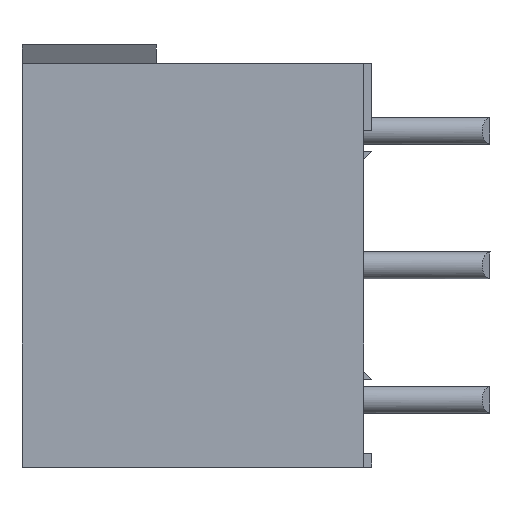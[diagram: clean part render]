
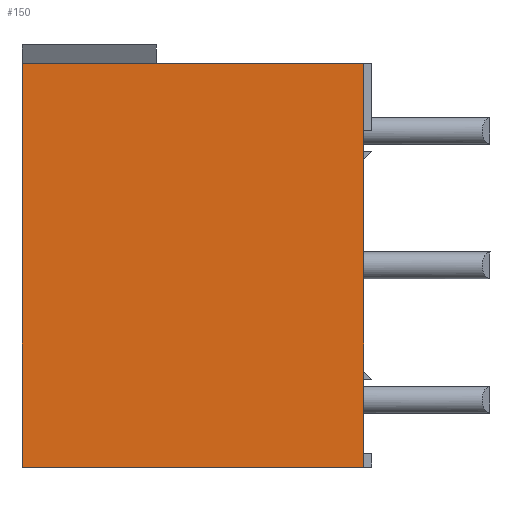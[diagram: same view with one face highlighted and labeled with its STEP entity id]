
A CAD part, left-side view. The second image highlights one B-rep face of the part: STEP entity #150.
In plain terms, the highlighted planar face has unit normal (-1, 0, 0).
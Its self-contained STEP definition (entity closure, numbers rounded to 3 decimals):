
#83 = VERTEX_POINT ( 'NONE', #4638 ) ;
#116 = EDGE_CURVE ( 'NONE', #4501, #83, #4687, .T. ) ;
#125 = EDGE_CURVE ( 'NONE', #132, #4498, #4737, .T. ) ;
#132 = VERTEX_POINT ( 'NONE', #4722 ) ;
#142 = EDGE_CURVE ( 'NONE', #132, #83, #4711, .T. ) ;
#143 = ORIENTED_EDGE ( 'NONE', *, *, #125, .F. ) ;
#144 = ORIENTED_EDGE ( 'NONE', *, *, #142, .T. ) ;
#148 = ORIENTED_EDGE ( 'NONE', *, *, #116, .F. ) ;
#150 = ADVANCED_FACE ( 'NONE', ( #4707 ), #4777, .F. ) ;
#156 = ORIENTED_EDGE ( 'NONE', *, *, #4500, .F. ) ;
#157 = EDGE_LOOP ( 'NONE', ( #156, #143, #144, #148 ) ) ;
#4498 = VERTEX_POINT ( 'NONE', #12375 ) ;
#4500 = EDGE_CURVE ( 'NONE', #4498, #4501, #12437, .T. ) ;
#4501 = VERTEX_POINT ( 'NONE', #12433 ) ;
#4638 = CARTESIAN_POINT ( 'NONE',  ( -4.8, 12.7, -15. ) ) ;
#4684 = DIRECTION ( 'NONE',  ( 0., 1., 0. ) ) ;
#4685 = VECTOR ( 'NONE', #4684, 1000. ) ;
#4686 = CARTESIAN_POINT ( 'NONE',  ( -4.8, 6.35, -15. ) ) ;
#4687 = LINE ( 'NONE', #4686, #4685 ) ;
#4707 = FACE_OUTER_BOUND ( 'NONE', #157, .T. ) ;
#4708 = DIRECTION ( 'NONE',  ( 0., 0., -1. ) ) ;
#4709 = VECTOR ( 'NONE', #4708, 1000. ) ;
#4710 = CARTESIAN_POINT ( 'NONE',  ( -4.8, 12.7, -7.15 ) ) ;
#4711 = LINE ( 'NONE', #4710, #4709 ) ;
#4722 = CARTESIAN_POINT ( 'NONE',  ( -4.8, 12.7, 0. ) ) ;
#4734 = DIRECTION ( 'NONE',  ( 0., -1., 0. ) ) ;
#4735 = VECTOR ( 'NONE', #4734, 1000. ) ;
#4736 = CARTESIAN_POINT ( 'NONE',  ( -4.8, 6.35, 0. ) ) ;
#4737 = LINE ( 'NONE', #4736, #4735 ) ;
#4773 = DIRECTION ( 'NONE',  ( 0., 0., -1. ) ) ;
#4774 = DIRECTION ( 'NONE',  ( 1., 0., 0. ) ) ;
#4775 = CARTESIAN_POINT ( 'NONE',  ( -4.8, 0., 0. ) ) ;
#4776 = AXIS2_PLACEMENT_3D ( 'NONE', #4775, #4774, #4773 ) ;
#4777 = PLANE ( 'NONE',  #4776 ) ;
#12375 = CARTESIAN_POINT ( 'NONE',  ( -4.8, 0., 0. ) ) ;
#12433 = CARTESIAN_POINT ( 'NONE',  ( -4.8, 0., -15. ) ) ;
#12434 = DIRECTION ( 'NONE',  ( 0., 0., -1. ) ) ;
#12435 = VECTOR ( 'NONE', #12434, 1000. ) ;
#12436 = CARTESIAN_POINT ( 'NONE',  ( -4.8, 0., -7.5 ) ) ;
#12437 = LINE ( 'NONE', #12436, #12435 ) ;
